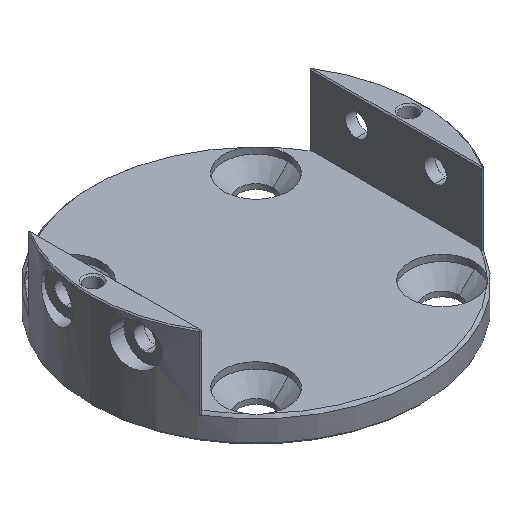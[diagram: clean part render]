
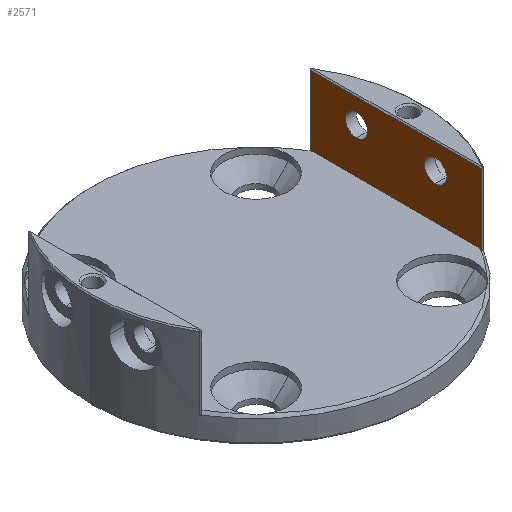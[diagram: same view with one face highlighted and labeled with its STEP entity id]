
A CAD part, isometric view. The second image highlights one B-rep face of the part: STEP entity #2571.
In plain terms, the highlighted planar face has unit normal (-1, 0, 0).
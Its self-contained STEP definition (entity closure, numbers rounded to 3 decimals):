
#66 = DIRECTION ( 'NONE',  ( 0., -1., 0. ) ) ;
#69 = CARTESIAN_POINT ( 'NONE',  ( 26.59, 16.186, 18.4 ) ) ;
#74 = DIRECTION ( 'NONE',  ( 1., 0., 0. ) ) ;
#105 = CARTESIAN_POINT ( 'NONE',  ( 26.59, 16.186, 4.871 ) ) ;
#126 = DIRECTION ( 'NONE',  ( 0., 0., -1. ) ) ;
#233 = DIRECTION ( 'NONE',  ( 0., 0., 1. ) ) ;
#235 = VECTOR ( 'NONE', #1134, 1000. ) ;
#236 = AXIS2_PLACEMENT_3D ( 'NONE', #2069, #3037, #2640 ) ;
#252 = CIRCLE ( 'NONE', #1127, 2.1 ) ;
#265 = CARTESIAN_POINT ( 'NONE',  ( 26.59, -7.5, 11.4 ) ) ;
#287 = EDGE_CURVE ( 'NONE', #395, #1317, #2698, .T. ) ;
#289 = EDGE_LOOP ( 'NONE', ( #771, #2091 ) ) ;
#305 = LINE ( 'NONE', #2248, #2017 ) ;
#314 = VERTEX_POINT ( 'NONE', #1810 ) ;
#321 = CARTESIAN_POINT ( 'NONE',  ( 26.59, -15.936, 5. ) ) ;
#323 = CARTESIAN_POINT ( 'NONE',  ( 26.59, 16.103, 4.914 ) ) ;
#362 = FACE_OUTER_BOUND ( 'NONE', #963, .T. ) ;
#388 = CARTESIAN_POINT ( 'NONE',  ( 26.59, 16.186, 4.871 ) ) ;
#395 = VERTEX_POINT ( 'NONE', #388 ) ;
#561 = AXIS2_PLACEMENT_3D ( 'NONE', #1834, #2073, #126 ) ;
#596 = CARTESIAN_POINT ( 'NONE',  ( 26.59, -16.186, 4.871 ) ) ;
#706 = B_SPLINE_CURVE_WITH_KNOTS ( 'NONE', 3,
 ( #1620, #1652, #2596, #1399 ),
 .UNSPECIFIED., .F., .F.,
 ( 4, 4 ),
 ( 0., 0. ),
 .UNSPECIFIED. ) ;
#729 = LINE ( 'NONE', #1682, #1058 ) ;
#771 = ORIENTED_EDGE ( 'NONE', *, *, #1097, .T. ) ;
#806 = EDGE_LOOP ( 'NONE', ( #1033, #2977 ) ) ;
#837 = FACE_BOUND ( 'NONE', #806, .T. ) ;
#858 = CIRCLE ( 'NONE', #2989, 2.1 ) ;
#884 = ORIENTED_EDGE ( 'NONE', *, *, #1966, .T. ) ;
#939 = ORIENTED_EDGE ( 'NONE', *, *, #2886, .T. ) ;
#963 = EDGE_LOOP ( 'NONE', ( #884, #1593, #2813, #2525, #939, #2172 ) ) ;
#1029 = CARTESIAN_POINT ( 'NONE',  ( 26.59, 16.02, 4.957 ) ) ;
#1033 = ORIENTED_EDGE ( 'NONE', *, *, #1093, .T. ) ;
#1058 = VECTOR ( 'NONE', #233, 1000. ) ;
#1082 = CARTESIAN_POINT ( 'NONE',  ( 26.59, 15.936, 5. ) ) ;
#1093 = EDGE_CURVE ( 'NONE', #2086, #1166, #252, .T. ) ;
#1097 = EDGE_CURVE ( 'NONE', #1329, #3013, #3062, .T. ) ;
#1124 = CARTESIAN_POINT ( 'NONE',  ( 26.59, 7.5, 15.6 ) ) ;
#1127 = AXIS2_PLACEMENT_3D ( 'NONE', #3011, #74, #2786 ) ;
#1134 = DIRECTION ( 'NONE',  ( 0., 1., 0. ) ) ;
#1166 = VERTEX_POINT ( 'NONE', #2133 ) ;
#1230 = EDGE_CURVE ( 'NONE', #2937, #1445, #706, .T. ) ;
#1253 = AXIS2_PLACEMENT_3D ( 'NONE', #3032, #1826, #2300 ) ;
#1314 = LINE ( 'NONE', #69, #2143 ) ;
#1317 = VERTEX_POINT ( 'NONE', #2909 ) ;
#1329 = VERTEX_POINT ( 'NONE', #1756 ) ;
#1332 = PLANE ( 'NONE',  #236 ) ;
#1347 = DIRECTION ( 'NONE',  ( 1., 0., 0. ) ) ;
#1399 = CARTESIAN_POINT ( 'NONE',  ( 26.59, -16.186, 4.871 ) ) ;
#1438 = EDGE_CURVE ( 'NONE', #2984, #395, #1314, .T. ) ;
#1445 = VERTEX_POINT ( 'NONE', #596 ) ;
#1553 = LINE ( 'NONE', #2309, #235 ) ;
#1566 = FACE_BOUND ( 'NONE', #289, .T. ) ;
#1593 = ORIENTED_EDGE ( 'NONE', *, *, #2210, .T. ) ;
#1620 = CARTESIAN_POINT ( 'NONE',  ( 26.59, -15.936, 5. ) ) ;
#1652 = CARTESIAN_POINT ( 'NONE',  ( 26.59, -16.02, 4.957 ) ) ;
#1682 = CARTESIAN_POINT ( 'NONE',  ( 26.59, -16.186, 18.4 ) ) ;
#1756 = CARTESIAN_POINT ( 'NONE',  ( 26.59, 7.5, 11.4 ) ) ;
#1810 = CARTESIAN_POINT ( 'NONE',  ( 26.59, -16.186, 18.2 ) ) ;
#1826 = DIRECTION ( 'NONE',  ( 1., 0., 0. ) ) ;
#1834 = CARTESIAN_POINT ( 'NONE',  ( 26.59, 7.5, 13.5 ) ) ;
#1966 = EDGE_CURVE ( 'NONE', #1445, #314, #729, .T. ) ;
#2017 = VECTOR ( 'NONE', #66, 1000. ) ;
#2069 = CARTESIAN_POINT ( 'NONE',  ( 26.59, 16.889, 18.4 ) ) ;
#2073 = DIRECTION ( 'NONE',  ( 1., 0., 0. ) ) ;
#2086 = VERTEX_POINT ( 'NONE', #265 ) ;
#2091 = ORIENTED_EDGE ( 'NONE', *, *, #2847, .T. ) ;
#2133 = CARTESIAN_POINT ( 'NONE',  ( 26.59, -7.5, 15.6 ) ) ;
#2143 = VECTOR ( 'NONE', #3006, 1000. ) ;
#2172 = ORIENTED_EDGE ( 'NONE', *, *, #1230, .T. ) ;
#2210 = EDGE_CURVE ( 'NONE', #314, #2984, #1553, .T. ) ;
#2248 = CARTESIAN_POINT ( 'NONE',  ( 26.59, 16.889, 5. ) ) ;
#2300 = DIRECTION ( 'NONE',  ( 0., 0., -1. ) ) ;
#2309 = CARTESIAN_POINT ( 'NONE',  ( 26.59, 16.186, 18.2 ) ) ;
#2360 = CARTESIAN_POINT ( 'NONE',  ( 26.59, 16.186, 18.2 ) ) ;
#2509 = CARTESIAN_POINT ( 'NONE',  ( 26.59, -7.5, 13.5 ) ) ;
#2525 = ORIENTED_EDGE ( 'NONE', *, *, #287, .T. ) ;
#2533 = EDGE_CURVE ( 'NONE', #1166, #2086, #858, .T. ) ;
#2571 = ADVANCED_FACE ( 'NONE', ( #837, #1566, #362 ), #1332, .F. ) ;
#2573 = DIRECTION ( 'NONE',  ( 0., 0., -1. ) ) ;
#2596 = CARTESIAN_POINT ( 'NONE',  ( 26.59, -16.103, 4.914 ) ) ;
#2640 = DIRECTION ( 'NONE',  ( 0., 0., -1. ) ) ;
#2698 = B_SPLINE_CURVE_WITH_KNOTS ( 'NONE', 3,
 ( #105, #323, #1029, #1082 ),
 .UNSPECIFIED., .F., .F.,
 ( 4, 4 ),
 ( 0., 0. ),
 .UNSPECIFIED. ) ;
#2786 = DIRECTION ( 'NONE',  ( 0., 0., -1. ) ) ;
#2813 = ORIENTED_EDGE ( 'NONE', *, *, #1438, .T. ) ;
#2847 = EDGE_CURVE ( 'NONE', #3013, #1329, #2992, .T. ) ;
#2886 = EDGE_CURVE ( 'NONE', #1317, #2937, #305, .T. ) ;
#2909 = CARTESIAN_POINT ( 'NONE',  ( 26.59, 15.936, 5. ) ) ;
#2937 = VERTEX_POINT ( 'NONE', #321 ) ;
#2977 = ORIENTED_EDGE ( 'NONE', *, *, #2533, .T. ) ;
#2984 = VERTEX_POINT ( 'NONE', #2360 ) ;
#2989 = AXIS2_PLACEMENT_3D ( 'NONE', #2509, #1347, #2573 ) ;
#2992 = CIRCLE ( 'NONE', #1253, 2.1 ) ;
#3006 = DIRECTION ( 'NONE',  ( 0., 0., -1. ) ) ;
#3011 = CARTESIAN_POINT ( 'NONE',  ( 26.59, -7.5, 13.5 ) ) ;
#3013 = VERTEX_POINT ( 'NONE', #1124 ) ;
#3032 = CARTESIAN_POINT ( 'NONE',  ( 26.59, 7.5, 13.5 ) ) ;
#3037 = DIRECTION ( 'NONE',  ( 1., 0., 0. ) ) ;
#3062 = CIRCLE ( 'NONE', #561, 2.1 ) ;
